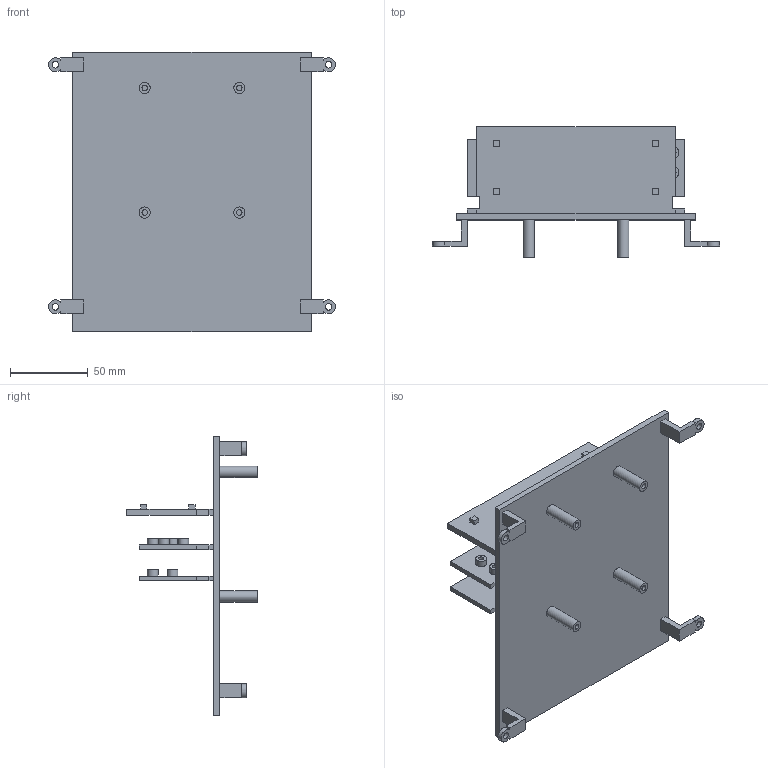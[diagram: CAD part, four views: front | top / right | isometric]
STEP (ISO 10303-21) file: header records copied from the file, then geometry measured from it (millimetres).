
FILE_DESCRIPTION(('FreeCAD Model'),'2;1');
FILE_NAME('Open CASCADE Shape Model','2026-10-14T02:28:29',('FreeCAD'),( 'FreeCAD'),'Open CASCADE STEP processor 7.8','FreeCAD','Unknown');
FILE_SCHEMA(('AUTOMOTIVE_DESIGN { 1 0 10303 214 1 1 1 1 }'));
Length unit declared in the file: millimetre
Products named in the file (1): Open CASCADE STEP translator 7.8 15
Bounding box: 184.98 x 84.13 x 180 mm (x, y, z)
Volume: 188705.9 mm3; surface area: 107937.5 mm2
Topology: 1 solids, 1 shells, 177 faces, 392 edges, 264 vertices
Faces by surface type: plane 133, cylinder 44
Full cylindrical faces by diameter (mm): 3.2 x14, 3.5 x4, 4.2 x4, 7 x14, 7.2 x4
Entity records: 4912 total; most frequent: DIRECTION 844, CARTESIAN_POINT 834, ORIENTED_EDGE 784, EDGE_CURVE 392, LINE 296, VECTOR 296, AXIS2_PLACEMENT_3D 274, VERTEX_POINT 264
